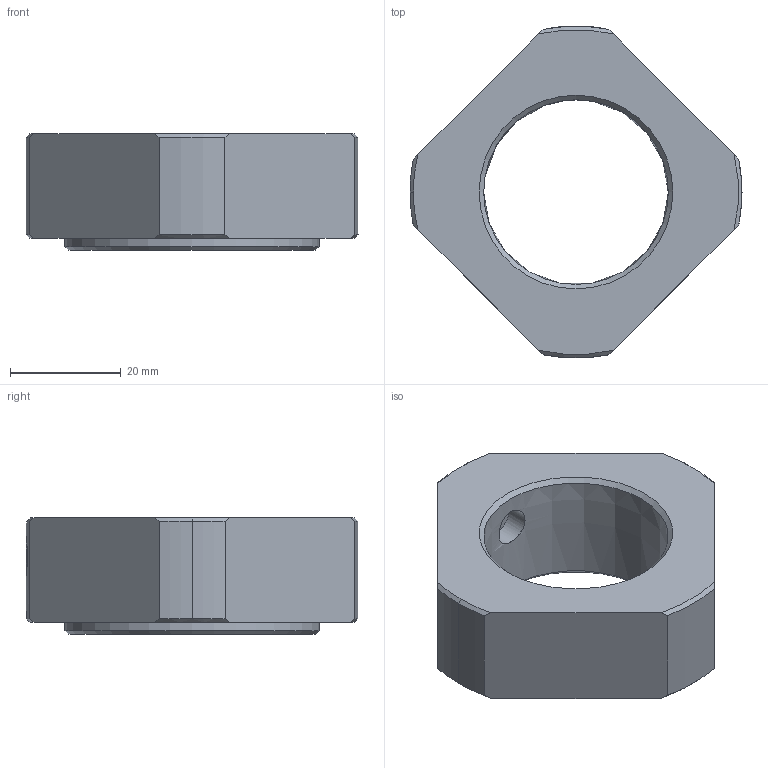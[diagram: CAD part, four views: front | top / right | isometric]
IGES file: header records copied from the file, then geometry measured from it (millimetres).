
Start section: Data from Parasolid IGES Translator 26.0.171, Copyright(c) 2006 Siemens PLM Software. All Rights Reserved.
Global section: file name: RN 35.igs; native system: By Siemens PLM Incorporated; preprocessor: XPlus GENERIC/IGES 26.0.171; author: Noname; organization: Noname; date: 20250611.074233; units: millimetre
Bounding box: 60 x 59.93 x 21 mm (x, y, z)
Surface area: 8879.6 mm2 (no closed solid volume)
Topology: 0 solids, 0 shells, 39 faces, 200 edges, 198 vertices
Faces by surface type: revolution 23, extrusion 16
